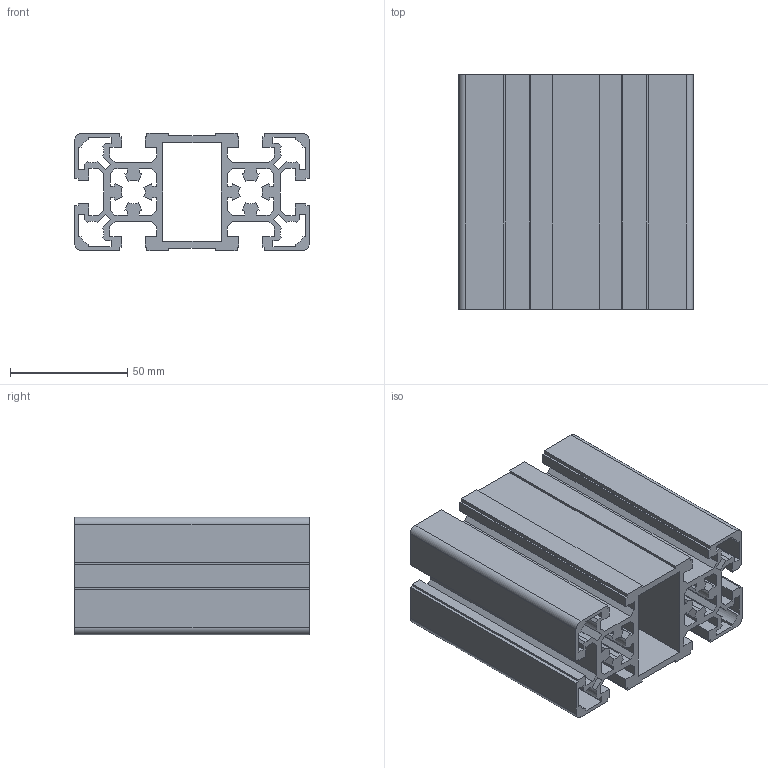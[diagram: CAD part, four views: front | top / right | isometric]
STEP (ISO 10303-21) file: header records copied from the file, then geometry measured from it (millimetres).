
FILE_DESCRIPTION (( 'STEP AP203' ), '1' );
FILE_NAME ('0110P10050.STEP', '2024-03-01T12:47:21', ( 'Windows-Benutzer' ), ( '' ), 'SwSTEP 2.0', 'SolidWorks 2023', '' );
FILE_SCHEMA (( 'CONFIG_CONTROL_DESIGN' ));
Length unit declared in the file: millimetre
Products named in the file (1): 0110P10050
Bounding box: 100 x 100 x 50 mm (x, y, z)
Volume: 171649.1 mm3; surface area: 121105.5 mm2
Topology: 1 solids, 1 shells, 254 faces, 756 edges, 504 vertices
Faces by surface type: plane 226, cylinder 28
Entity records: 8501 total; most frequent: CARTESIAN_POINT 1515, ORIENTED_EDGE 1512, DIRECTION 1322, EDGE_CURVE 756, VECTOR 700, LINE 700, VERTEX_POINT 504, AXIS2_PLACEMENT_3D 311
